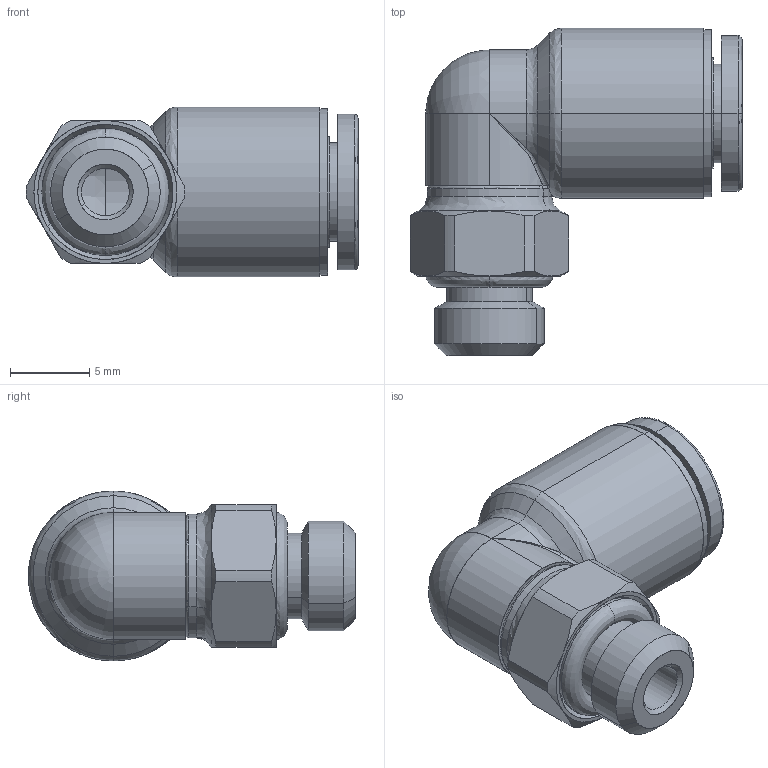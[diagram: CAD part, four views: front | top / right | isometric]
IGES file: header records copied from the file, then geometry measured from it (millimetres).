
Start section: SolidWorks IGES file using analytic representation for surfaces
Global section: file name: K:\Disegni Esecutivi\SERIE 56000\ASSIEMI_56000\56115\5611500011A.IGS; native system: SolidWorks 2016; preprocessor: SolidWorks 2016; author: cad05; date: 170725.092248; units: millimetre
Bounding box: 20.9 x 20.6 x 10.7 mm (x, y, z)
Surface area: 1467.5 mm2 (no closed solid volume)
Topology: 0 solids, 0 shells, 131 faces, 1384 edges, 1381 vertices
Faces by surface type: bspline 75, revolution 56
